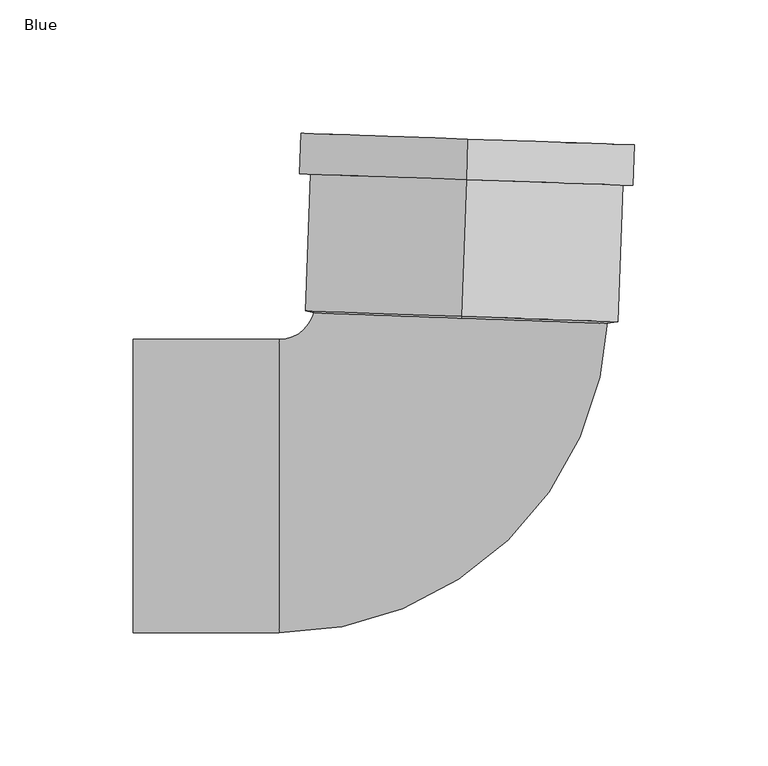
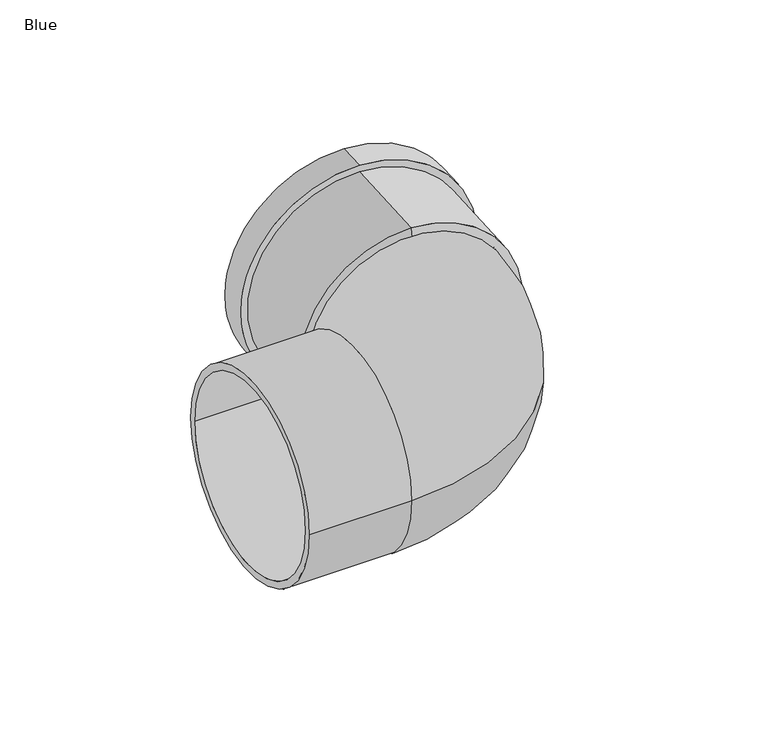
"""IFC4 building model written with IfcOpenShell, lengths in millimetres: pipe fitting geometry, AWADUKT PP SN10 Bend : Blue."""

from ifc_helpers import new_model, si_unit, point, frame, origin, place, context, project, spatial, polyline, circle_curve, ellipse_curve, trimmed, source, transform, mapped, element, save
from ifc_brep_helpers import plane_surface, cylinder_surface, revolved_surface, advanced_brep


def blue_a2c14ece(model_context):
    return source(origin(), model_context, "Body", "AdvancedBrep", [
        advanced_brep(
        [(4.0134421, 114.9299451, 58.8), (4.0134421, 114.9299451, -58.8), (2.222451, 63.6426709, -58.8), (2.222451, 63.6426709, 58.8), (4.5439145, 130.1206857, 62.6), (4.5439145, 130.1206857, -62.6), (4.0134421, 114.9299451, -62.6), (4.0134421, 114.9299451, 62.6), (4.4112964, 126.3230005, 55.0), (4.4112964, 126.3230005, -55.0), (4.5439145, 130.1206857, -55.0), (4.5439145, 130.1206857, 55.0), (4.1460602, 118.7276302, 58.8), (4.1460602, 118.7276302, -58.8), (4.4112964, 126.3230005, -58.8), (4.4112964, 126.3230005, 58.8), (2.3337308, 66.8293071, 55.0), (2.3337308, 66.8293071, -55.0), (4.1460602, 118.7276302, -55.0), (4.1460602, 118.7276302, 55.0), (2.3103467, 66.1596727, 51.2), (2.3103467, 66.1596727, -51.2), (2.1756827, 62.3034022, 51.2), (2.1756827, 62.3034022, -51.2)],
        [
            (0, 1, circle_curve(frame((4.0134421, 114.9299451, 0.0), z_axis=(-0.034899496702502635, -0.9993908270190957, 0.0), x_axis=(0.0, 0.0, -1.0)), 58.8)),
            (1, 2),
            (2, 3, circle_curve(frame((2.222451, 63.6426709, 0.0), z_axis=(0.034899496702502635, 0.9993908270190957, 0.0), x_axis=(0.0, 0.0, -1.0)), 58.8)),
            (3, 0),
            (4, 5, circle_curve(frame((4.5439145, 130.1206857, 0.0), z_axis=(-0.034899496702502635, -0.9993908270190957, 0.0), x_axis=(0.0, 0.0, -1.0)), 62.6)),
            (5, 6),
            (6, 7, circle_curve(frame((4.0134421, 114.9299451, 0.0), z_axis=(0.034899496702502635, 0.9993908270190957, 0.0), x_axis=(0.0, 0.0, -1.0)), 62.6)),
            (7, 4),
            (8, 9, circle_curve(frame((4.4112964, 126.3230005, 0.0), z_axis=(-0.034899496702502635, -0.9993908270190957, 0.0), x_axis=(0.0, 0.0, -1.0)), 55.0)),
            (9, 10),
            (10, 11, circle_curve(frame((4.5439145, 130.1206857, 0.0), z_axis=(0.034899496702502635, 0.9993908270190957, 0.0), x_axis=(0.0, 0.0, -1.0)), 55.0)),
            (11, 8),
            (12, 13, circle_curve(frame((4.1460602, 118.7276302, 0.0), z_axis=(-0.034899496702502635, -0.9993908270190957, 0.0), x_axis=(0.0, 0.0, -1.0)), 58.8)),
            (13, 14),
            (14, 15, circle_curve(frame((4.4112964, 126.3230005, 0.0), z_axis=(0.034899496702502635, 0.9993908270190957, 0.0), x_axis=(0.0, 0.0, -1.0)), 58.8)),
            (15, 12),
            (16, 17, circle_curve(frame((2.3337308, 66.8293071, 0.0), z_axis=(-0.034899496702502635, -0.9993908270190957, 0.0), x_axis=(0.0, 0.0, -1.0)), 55.0)),
            (17, 18),
            (18, 19, circle_curve(frame((4.1460602, 118.7276302, 0.0), z_axis=(0.034899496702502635, 0.9993908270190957, 0.0), x_axis=(0.0, 0.0, -1.0)), 55.0)),
            (19, 16),
            (20, 21, circle_curve(frame((2.3103467, 66.1596727, 0.0), z_axis=(-0.034899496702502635, -0.9993908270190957, 0.0), x_axis=(0.0, 0.0, -1.0)), 51.2)),
            (21, 17),
            (16, 20),
            (22, 23, circle_curve(frame((2.1756827, 62.3034022, 0.0), z_axis=(-0.034899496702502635, -0.9993908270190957, 0.0), x_axis=(0.0, 0.0, -1.0)), 51.2)),
            (23, 21),
            (20, 22),
            (2, 23),
            (22, 3),
            (1, 0, circle_curve(frame((4.0134421, 114.9299451, 0.0), z_axis=(-0.034899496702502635, -0.9993908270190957, 0.0), x_axis=(0.0, 0.0, 1.0)), 58.8)),
            (3, 2, circle_curve(frame((2.222451, 63.6426709, 0.0), z_axis=(0.034899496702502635, 0.9993908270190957, 0.0), x_axis=(0.0, 0.0, 1.0)), 58.8)),
            (6, 7, circle_curve(frame((4.0134421, 114.9299451, 0.0), z_axis=(-0.034899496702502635, -0.9993908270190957, 0.0), x_axis=(0.0, 0.0, 1.0)), 62.6)),
            (5, 4, circle_curve(frame((4.5439145, 130.1206857, 0.0), z_axis=(-0.034899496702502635, -0.9993908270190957, 0.0), x_axis=(0.0, 0.0, 1.0)), 62.6)),
            (10, 11, circle_curve(frame((4.5439145, 130.1206857, 0.0), z_axis=(-0.034899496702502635, -0.9993908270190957, 0.0), x_axis=(0.0, 0.0, 1.0)), 55.0)),
            (9, 8, circle_curve(frame((4.4112964, 126.3230005, 0.0), z_axis=(-0.034899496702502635, -0.9993908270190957, 0.0), x_axis=(0.0, 0.0, 1.0)), 55.0)),
            (14, 15, circle_curve(frame((4.4112964, 126.3230005, 0.0), z_axis=(-0.034899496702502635, -0.9993908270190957, 0.0), x_axis=(0.0, 0.0, 1.0)), 58.8)),
            (13, 12, circle_curve(frame((4.1460602, 118.7276302, 0.0), z_axis=(-0.034899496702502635, -0.9993908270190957, 0.0), x_axis=(0.0, 0.0, 1.0)), 58.8)),
            (18, 19, circle_curve(frame((4.1460602, 118.7276302, 0.0), z_axis=(-0.034899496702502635, -0.9993908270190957, 0.0), x_axis=(0.0, 0.0, 1.0)), 55.0)),
            (17, 16, circle_curve(frame((2.3337308, 66.8293071, 0.0), z_axis=(-0.034899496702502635, -0.9993908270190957, 0.0), x_axis=(0.0, 0.0, 1.0)), 55.0)),
            (21, 20, circle_curve(frame((2.3103467, 66.1596727, 0.0), z_axis=(-0.034899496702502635, -0.9993908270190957, 0.0), x_axis=(0.0, 0.0, 1.0)), 51.2)),
            (23, 22, circle_curve(frame((2.1756827, 62.3034022, 0.0), z_axis=(-0.034899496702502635, -0.9993908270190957, 0.0), x_axis=(0.0, 0.0, 1.0)), 51.2)),
        ],
        [
            cylinder_surface(frame((2.3103467, 66.1596727, 0.0), z_axis=(0.034899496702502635, 0.9993908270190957, 0.0), x_axis=(0.0, 0.0, -1.0)), 58.8),
            cylinder_surface(frame((2.3103467, 66.1596727, 0.0), z_axis=(0.034899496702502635, 0.9993908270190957, 0.0), x_axis=(0.0, 0.0, -1.0)), 62.6),
            revolved_surface(polyline([(4.543914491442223, 130.12068570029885, -55.0), (4.411296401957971, 126.32300049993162, -55.0)]), (2.3103467, 66.1596727, 0.0), (0.034899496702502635, 0.9993908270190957, 0.0)),
            revolved_surface(polyline([(4.411296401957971, 126.32300049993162, -58.8), (4.1460602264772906, 118.72763019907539, -58.8)]), (2.3103467, 66.1596727, 0.0), (0.034899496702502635, 0.9993908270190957, 0.0)),
            revolved_surface(polyline([(4.1460602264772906, 118.72763019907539, -55.0), (2.333730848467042, 66.82930709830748, -55.0)]), (2.3103467, 66.1596727, 0.0), (0.034899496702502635, 0.9993908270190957, 0.0)),
            revolved_surface(polyline([(2.3337308, 66.8293071, -55.0), (2.3103467, 66.1596727, -51.2)]), (2.3103467, 66.1596727, 0.0), (0.034899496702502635, 0.9993908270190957, 0.0)),
            revolved_surface(polyline([(2.3103467, 66.1596727, -51.2), (2.1756827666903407, 62.303402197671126, -51.2)]), (2.3103467, 66.1596727, 0.0), (0.034899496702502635, 0.9993908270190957, 0.0)),
            revolved_surface(polyline([(2.1756827, 62.3034022, -51.2), (2.222451, 63.6426709, -58.8)]), (2.3103467, 66.1596727, 0.0), (0.034899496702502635, 0.9993908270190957, 0.0)),
            cylinder_surface(frame((2.3103467, 66.1596727, 0.0), z_axis=(0.034899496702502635, 0.9993908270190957, 0.0), x_axis=(0.0, 0.0, 1.0)), 58.8),
            plane_surface(frame((4.0134421, 114.9299451, 0.0), z_axis=(-0.034899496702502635, -0.9993908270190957, 0.0), x_axis=(0.0, 0.0, 1.0))),
            cylinder_surface(frame((2.3103467, 66.1596727, 0.0), z_axis=(0.034899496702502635, 0.9993908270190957, 0.0), x_axis=(0.0, 0.0, 1.0)), 62.6),
            plane_surface(frame((4.5439145, 130.1206857, 0.0), z_axis=(0.034899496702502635, 0.9993908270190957, 0.0), x_axis=(0.0, 0.0, 1.0))),
            revolved_surface(polyline([(4.543914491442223, 130.12068570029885, 55.0), (4.411296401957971, 126.32300049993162, 55.0)]), (2.3103467, 66.1596727, 0.0), (0.034899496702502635, 0.9993908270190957, 0.0)),
            plane_surface(frame((4.4112964, 126.3230005, 0.0), z_axis=(-0.034899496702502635, -0.9993908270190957, 0.0), x_axis=(0.0, 0.0, 1.0))),
            revolved_surface(polyline([(4.411296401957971, 126.32300049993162, 58.8), (4.1460602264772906, 118.72763019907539, 58.8)]), (2.3103467, 66.1596727, 0.0), (0.034899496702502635, 0.9993908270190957, 0.0)),
            plane_surface(frame((4.1460602, 118.7276302, 0.0), z_axis=(0.034899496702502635, 0.9993908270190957, 0.0), x_axis=(0.0, 0.0, 1.0))),
            revolved_surface(polyline([(4.1460602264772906, 118.72763019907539, 55.0), (2.333730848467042, 66.82930709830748, 55.0)]), (2.3103467, 66.1596727, 0.0), (0.034899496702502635, 0.9993908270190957, 0.0)),
            revolved_surface(polyline([(2.3337308, 66.8293071, 55.0), (2.3103467, 66.1596727, 51.2)]), (2.3103467, 66.1596727, 0.0), (0.034899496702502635, 0.9993908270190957, 0.0)),
            revolved_surface(polyline([(2.3103467, 66.1596727, 51.2), (2.1756827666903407, 62.303402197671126, 51.2)]), (2.3103467, 66.1596727, 0.0), (0.034899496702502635, 0.9993908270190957, 0.0)),
            revolved_surface(polyline([(2.1756827, 62.3034022, 51.2), (2.222451, 63.6426709, 58.8)]), (2.3103467, 66.1596727, 0.0), (0.034899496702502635, 0.9993908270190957, 0.0)),
        ],
        [
            (0, [[1, 2, 3, 4]]),
            (1, [[5, 6, 7, 8]]),
            (2, [[9, 10, 11, 12]]),
            (3, [[13, 14, 15, 16]]),
            (4, [[17, 18, 19, 20]]),
            (5, [[21, 22, -17, 23]]),
            (6, [[24, 25, -21, 26]]),
            (7, [[-3, 27, -24, 28]]),
            (8, [[29, -4, 30, -2]]),
            (9, [[31, -7], [-29, -1]]),
            (10, [[32, -8, -31, -6]]),
            (11, [[-32, -5], [33, -11]]),
            (12, [[34, -12, -33, -10]]),
            (13, [[35, -15], [-34, -9]]),
            (14, [[36, -16, -35, -14]]),
            (15, [[-36, -13], [37, -19]]),
            (16, [[38, -20, -37, -18]]),
            (17, [[39, -23, -38, -22]]),
            (18, [[40, -26, -39, -25]]),
            (19, [[-30, -28, -40, -27]]),
        ],
    ),
        advanced_brep(
        [(-121.0, -55.0, 0.0), (-121.0, 55.0, 0.0), (-121.0, -51.2, 0.0), (-121.0, 51.2, 0.0), (57.2768422, 64.2402004, 0.0), (-52.6561488, 68.0791451, 0.0), (53.479157, 64.3728185, 0.0), (-48.8584637, 67.946527, 0.0), (-66.2, -51.2, 0.0), (-66.2, 51.2, 0.0), (-66.2, -55.0, 0.0), (-66.2, 55.0, 0.0)],
        [
            (0, 1, circle_curve(frame((-121.0, 0.0, 0.0), z_axis=(-1.0, 0.0, 0.0), x_axis=(0.0, 1.0, 0.0)), 55.0)),
            (1, 0, circle_curve(frame((-121.0, 0.0, 0.0), z_axis=(-1.0, 0.0, 0.0), x_axis=(0.0, 1.0, 0.0)), 55.0)),
            (2, 3, circle_curve(frame((-121.0, 0.0, 0.0), z_axis=(1.0, 0.0, 0.0), x_axis=(0.0, 1.0, 0.0)), 51.2)),
            (3, 2, circle_curve(frame((-121.0, 0.0, 0.0), z_axis=(1.0, 0.0, 0.0), x_axis=(0.0, 1.0, 0.0)), 51.2)),
            (4, 5, circle_curve(frame((2.3103467, 66.1596727, 0.0), z_axis=(0.03489949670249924, 0.9993908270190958, 0.0), x_axis=(-0.9993908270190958, 0.03489949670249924, 0.0)), 55.0)),
            (5, 4, circle_curve(frame((2.3103467, 66.1596727, 0.0), z_axis=(0.03489949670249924, 0.9993908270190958, 0.0), x_axis=(-0.9993908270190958, 0.03489949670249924, 0.0)), 55.0)),
            (6, 7, circle_curve(frame((2.3103467, 66.1596727, 0.0), z_axis=(-0.03489949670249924, -0.9993908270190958, 0.0), x_axis=(-0.9993908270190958, 0.03489949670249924, 0.0)), 51.2)),
            (7, 6, circle_curve(frame((2.3103467, 66.1596727, 0.0), z_axis=(-0.03489949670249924, -0.9993908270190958, 0.0), x_axis=(-0.9993908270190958, 0.03489949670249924, 0.0)), 51.2)),
            (2, 8),
            (8, 9, circle_curve(frame((-66.2, 0.0, 0.0), z_axis=(1.0, 0.0, 0.0), x_axis=(0.0, 1.0, 0.0)), 51.2)),
            (9, 3),
            (9, 8, circle_curve(frame((-66.2, 0.0, 0.0), z_axis=(1.0, 0.0, 0.0), x_axis=(0.0, 1.0, 0.0)), 51.2)),
            (0, 10),
            (10, 11, circle_curve(frame((-66.2, 0.0, 0.0), z_axis=(-1.0, 0.0, 0.0), x_axis=(0.0, 1.0, 0.0)), 55.0)),
            (11, 1),
            (11, 10, circle_curve(frame((-66.2, 0.0, 0.0), z_axis=(-1.0, 0.0, 0.0), x_axis=(0.0, 1.0, 0.0)), 55.0)),
            (7, 9, circle_curve(frame((-66.2, 68.5521068, 0.0), z_axis=(0.0, 0.0, -1.0), x_axis=(0.0, -1.0, 0.0)), 17.3521068)),
            (8, 6, circle_curve(frame((-66.2, 68.5521068, 0.0), z_axis=(0.0, 0.0, 1.0), x_axis=(0.0, -1.0, 0.0)), 119.7521068)),
            (5, 11, circle_curve(frame((-66.2, 68.5521068, 0.0), z_axis=(0.0, 0.0, -1.0), x_axis=(0.0, -1.0, 0.0)), 13.5521068)),
            (10, 4, circle_curve(frame((-66.2, 68.5521068, 0.0), z_axis=(0.0, 0.0, 1.0), x_axis=(0.0, -1.0, 0.0)), 123.5521068)),
        ],
        [
            plane_surface(frame((-121.0, 0.0, 0.0), z_axis=(-1.0, 0.0, 0.0), x_axis=(0.0, 0.0, 1.0))),
            plane_surface(frame((2.3103467, 66.1596727, 0.0), z_axis=(0.03489949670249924, 0.9993908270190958, 0.0), x_axis=(0.0, 0.0, 1.0))),
            revolved_surface(polyline([(-66.2, 51.2, 0.0), (-121.0, 51.2, 0.0)]), (-121.0, 0.0, 0.0), (1.0, 0.0, 0.0)),
            cylinder_surface(frame((-121.0, 0.0, 0.0), z_axis=(-1.0, 0.0, 0.0), x_axis=(0.0, 1.0, 0.0)), 55.0),
            revolved_surface(trimmed(ellipse_curve(frame((-66.2, 0.0, 0.0), z_axis=(1.0, 0.0, 0.0), x_axis=(0.0, 1.0, 0.0)), 51.2, 51.2), [point((-66.2, -51.2, 0.0))], [point((-66.2, 51.2, 0.0))], True, "CARTESIAN"), (-66.2, 68.5521068, 0.0), (0.0, 0.0, 1.0)),
            revolved_surface(trimmed(ellipse_curve(frame((-66.2, 0.0, 0.0), z_axis=(1.0, 0.0, 0.0), x_axis=(0.0, 1.0, 0.0)), 51.2, 51.2), [point((-66.2, 51.2, 0.0))], [point((-66.2, -51.2, 0.0))], True, "CARTESIAN"), (-66.2, 68.5521068, 0.0), (0.0, 0.0, 1.0)),
            revolved_surface(trimmed(ellipse_curve(frame((-66.2, 0.0, 0.0), z_axis=(-1.0, 0.0, 0.0), x_axis=(0.0, 1.0, 0.0)), 55.0, 55.0), [point((-66.2, -55.0, 0.0))], [point((-66.2, 55.0, 0.0))], True, "CARTESIAN"), (-66.2, 68.5521068, 0.0), (0.0, 0.0, 1.0)),
            revolved_surface(trimmed(ellipse_curve(frame((-66.2, 0.0, 0.0), z_axis=(-1.0, 0.0, 0.0), x_axis=(0.0, 1.0, 0.0)), 55.0, 55.0), [point((-66.2, 55.0, 0.0))], [point((-66.2, -55.0, 0.0))], True, "CARTESIAN"), (-66.2, 68.5521068, 0.0), (0.0, 0.0, 1.0)),
        ],
        [
            (0, [[1, 2], [3, 4]]),
            (1, [[5, 6], [7, 8]]),
            (2, [[-3, 9, 10, 11]]),
            (2, [[-4, -11, 12, -9]]),
            (3, [[-1, 13, 14, 15]]),
            (3, [[-2, -15, 16, -13]]),
            (4, [[17, -10, 18, -8]]),
            (5, [[-18, -12, -17, -7]]),
            (6, [[19, -14, 20, -6]]),
            (7, [[-20, -16, -19, -5]]),
        ],
    ),
    ])


if __name__ == "__main__":
    model = new_model("IFC4")
    model_context = context("Model", 3, world=origin())
    ifc_project = project(units=[si_unit("LENGTHUNIT", "METRE", prefix="MILLI")], contexts=[model_context])
    site = spatial("IfcSite", under=ifc_project)
    building = spatial("IfcBuilding", under=site)
    placement = place(None, origin())
    blue_shape = blue_a2c14ece(model_context)
    element("IfcPipeFitting", 1, ObjectType="AWADUKT PP SN10 Bend : Blue", at=placement, inside=building, context=model_context, shape_type="MappedRepresentation", body=[
        mapped(blue_shape, transform((0.0, 0.0, 0.0), x_axis=(1.0, 0.0, 0.0), y_axis=(0.0, 1.0, 0.0), z_axis=(0.0, 0.0, 1.0))),
    ])
    save(model, "model.ifc")
